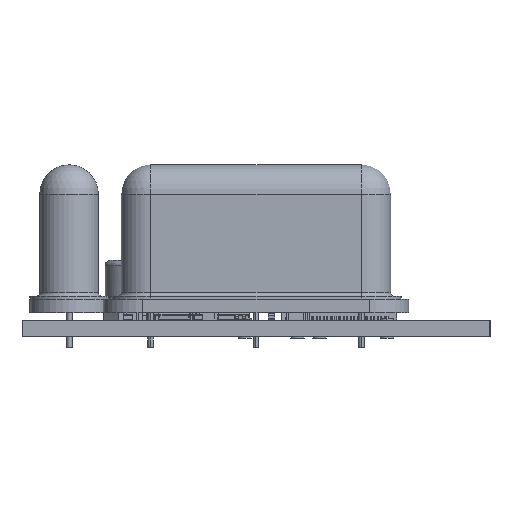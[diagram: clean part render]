
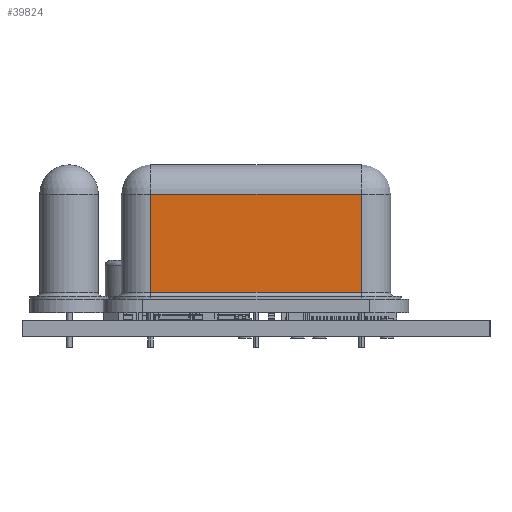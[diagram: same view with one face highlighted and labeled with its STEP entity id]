
A CAD part, left-side view. The second image highlights one B-rep face of the part: STEP entity #39824.
In plain terms, the highlighted planar face has unit normal (-1, 0, 0).
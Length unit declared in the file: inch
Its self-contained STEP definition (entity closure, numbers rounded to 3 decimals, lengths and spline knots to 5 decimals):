
#8448 = VERTEX_POINT ( 'NONE', #20365 ) ;
#10369 = EDGE_CURVE ( 'NONE', #37853, #8448, #27564, .T. ) ;
#10910 = DIRECTION ( 'NONE',  ( 0., -1., 0. ) ) ;
#18092 = PLANE ( 'NONE',  #60247 ) ;
#20365 = CARTESIAN_POINT ( 'NONE',  ( 7.53452, 5.7145, 0.1674 ) ) ;
#21276 = EDGE_CURVE ( 'NONE', #47018, #81814, #43518, .T. ) ;
#21793 = VECTOR ( 'NONE', #10910, 39.37008 ) ;
#23351 = ORIENTED_EDGE ( 'NONE', *, *, #66523, .T. ) ;
#27564 = LINE ( 'NONE', #110973, #51526 ) ;
#34918 = EDGE_LOOP ( 'NONE', ( #110540, #23351, #49109, #75415 ) ) ;
#37658 = FACE_OUTER_BOUND ( 'NONE', #34918, .T. ) ;
#37853 = VERTEX_POINT ( 'NONE', #38639 ) ;
#38639 = CARTESIAN_POINT ( 'NONE',  ( 7.53452, 5.7145, 0.5404 ) ) ;
#39824 = ADVANCED_FACE ( 'NONE', ( #37658 ), #18092, .T. ) ;
#43518 = LINE ( 'NONE', #90064, #98140 ) ;
#47018 = VERTEX_POINT ( 'NONE', #99192 ) ;
#49109 = ORIENTED_EDGE ( 'NONE', *, *, #21276, .F. ) ;
#51526 = VECTOR ( 'NONE', #65738, 39.37008 ) ;
#60247 = AXIS2_PLACEMENT_3D ( 'NONE', #81797, #65186, #101527 ) ;
#61309 = CARTESIAN_POINT ( 'NONE',  ( 7.53452, 4.9145, 0.5404 ) ) ;
#65186 = DIRECTION ( 'NONE',  ( -1., 0., 0. ) ) ;
#65738 = DIRECTION ( 'NONE',  ( 0., 0., -1. ) ) ;
#66523 = EDGE_CURVE ( 'NONE', #8448, #81814, #91433, .T. ) ;
#74998 = CARTESIAN_POINT ( 'NONE',  ( 7.53452, 4.9145, 0.1674 ) ) ;
#75415 = ORIENTED_EDGE ( 'NONE', *, *, #93164, .T. ) ;
#77824 = VECTOR ( 'NONE', #114300, 39.37008 ) ;
#79863 = DIRECTION ( 'NONE',  ( 0., 0., -1. ) ) ;
#81797 = CARTESIAN_POINT ( 'NONE',  ( 7.53452, 4.9145, 0.1524 ) ) ;
#81814 = VERTEX_POINT ( 'NONE', #74998 ) ;
#90064 = CARTESIAN_POINT ( 'NONE',  ( 7.53452, 4.9145, 0.1524 ) ) ;
#91433 = LINE ( 'NONE', #101504, #21793 ) ;
#93164 = EDGE_CURVE ( 'NONE', #47018, #37853, #113165, .T. ) ;
#98140 = VECTOR ( 'NONE', #79863, 39.37008 ) ;
#99192 = CARTESIAN_POINT ( 'NONE',  ( 7.53452, 4.9145, 0.5404 ) ) ;
#101504 = CARTESIAN_POINT ( 'NONE',  ( 7.53452, 4.9145, 0.1674 ) ) ;
#101527 = DIRECTION ( 'NONE',  ( 0., 1., 0. ) ) ;
#110540 = ORIENTED_EDGE ( 'NONE', *, *, #10369, .T. ) ;
#110973 = CARTESIAN_POINT ( 'NONE',  ( 7.53452, 5.7145, 0.1524 ) ) ;
#113165 = LINE ( 'NONE', #61309, #77824 ) ;
#114300 = DIRECTION ( 'NONE',  ( 0., 1., 0. ) ) ;
